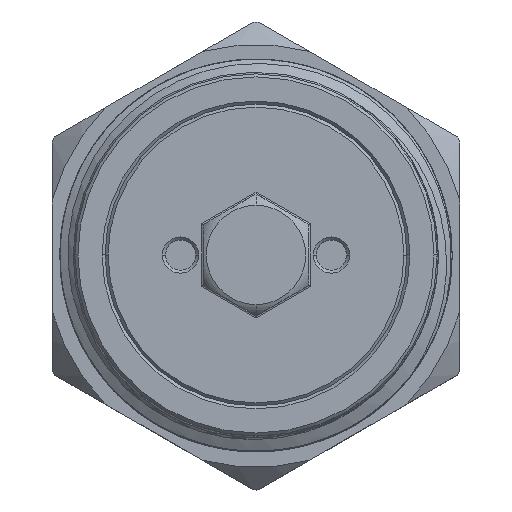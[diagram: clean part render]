
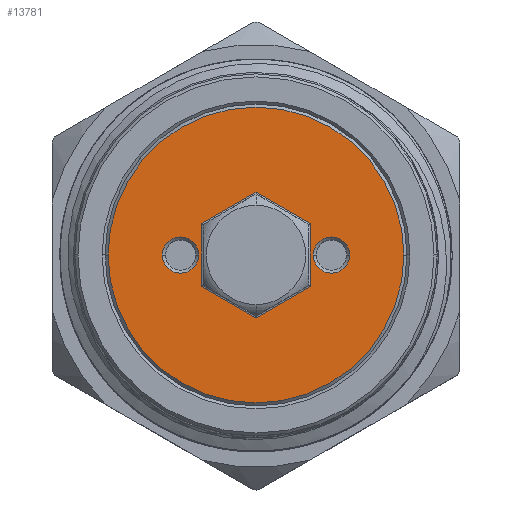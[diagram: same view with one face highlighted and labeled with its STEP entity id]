
A CAD part, top view. The second image highlights one B-rep face of the part: STEP entity #13781.
In plain terms, the highlighted planar face has unit normal (0, 0, 1) as drawn and (0, -1, 0) by its records, which use the part's own axes.
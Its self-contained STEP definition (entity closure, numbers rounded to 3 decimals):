
#13210=CARTESIAN_POINT('',(0.,0.,0.));
#13211=DIRECTION('',(0.,-1.,0.));
#13212=DIRECTION('',(-1.,0.,0.));
#13213=AXIS2_PLACEMENT_3D('',#13210,#13211,#13212);
#13215=CARTESIAN_POINT('',(0.,0.,0.));
#13216=DIRECTION('',(0.,-1.,0.));
#13217=DIRECTION('',(1.,0.,0.));
#13218=AXIS2_PLACEMENT_3D('',#13215,#13216,#13217);
#13220=CARTESIAN_POINT('',(-5.,0.,0.));
#13221=DIRECTION('',(0.,1.,0.));
#13222=DIRECTION('',(1.,0.,0.));
#13223=AXIS2_PLACEMENT_3D('',#13220,#13221,#13222);
#13225=CARTESIAN_POINT('',(-5.,0.,0.));
#13226=DIRECTION('',(0.,1.,0.));
#13227=DIRECTION('',(-1.,0.,0.));
#13228=AXIS2_PLACEMENT_3D('',#13225,#13226,#13227);
#13230=CARTESIAN_POINT('',(5.,0.,0.));
#13231=DIRECTION('',(0.,1.,0.));
#13232=DIRECTION('',(1.,0.,0.));
#13233=AXIS2_PLACEMENT_3D('',#13230,#13231,#13232);
#13235=CARTESIAN_POINT('',(5.,0.,0.));
#13236=DIRECTION('',(0.,1.,0.));
#13237=DIRECTION('',(-1.,0.,0.));
#13238=AXIS2_PLACEMENT_3D('',#13235,#13236,#13237);
#13240=DIRECTION('',(-0.866,0.,0.5));
#13241=VECTOR('',#13240,4.157);
#13242=CARTESIAN_POINT('',(3.6,0.,2.078));
#13243=LINE('',#13242,#13241);
#13244=DIRECTION('',(-0.866,0.,-0.5));
#13245=VECTOR('',#13244,4.157);
#13246=CARTESIAN_POINT('',(0.,0.,4.157));
#13247=LINE('',#13246,#13245);
#13248=DIRECTION('',(0.,0.,-1.));
#13249=VECTOR('',#13248,4.157);
#13250=CARTESIAN_POINT('',(-3.6,0.,2.078));
#13251=LINE('',#13250,#13249);
#13252=DIRECTION('',(0.866,0.,-0.5));
#13253=VECTOR('',#13252,4.157);
#13254=CARTESIAN_POINT('',(-3.6,0.,-2.078));
#13255=LINE('',#13254,#13253);
#13256=DIRECTION('',(0.866,0.,0.5));
#13257=VECTOR('',#13256,4.157);
#13258=CARTESIAN_POINT('',(0.,0.,-4.157));
#13259=LINE('',#13258,#13257);
#13260=DIRECTION('',(0.,0.,1.));
#13261=VECTOR('',#13260,4.157);
#13262=CARTESIAN_POINT('',(3.6,0.,-2.078));
#13263=LINE('',#13262,#13261);
#13670=CARTESIAN_POINT('',(-9.8,0.,0.));
#13671=CARTESIAN_POINT('',(9.8,0.,0.));
#13672=VERTEX_POINT('',#13670);
#13673=VERTEX_POINT('',#13671);
#13678=CARTESIAN_POINT('',(-3.8,0.,0.));
#13679=CARTESIAN_POINT('',(-6.2,0.,0.));
#13680=VERTEX_POINT('',#13678);
#13681=VERTEX_POINT('',#13679);
#13694=CARTESIAN_POINT('',(6.2,0.,0.));
#13695=CARTESIAN_POINT('',(3.8,0.,0.));
#13696=VERTEX_POINT('',#13694);
#13697=VERTEX_POINT('',#13695);
#13720=CARTESIAN_POINT('',(3.6,0.,2.078));
#13721=CARTESIAN_POINT('',(0.,0.,4.157));
#13722=VERTEX_POINT('',#13720);
#13723=VERTEX_POINT('',#13721);
#13728=CARTESIAN_POINT('',(3.6,0.,-2.078));
#13729=VERTEX_POINT('',#13728);
#13732=CARTESIAN_POINT('',(0.,0.,-4.157));
#13733=VERTEX_POINT('',#13732);
#13736=CARTESIAN_POINT('',(-3.6,0.,-2.078));
#13737=VERTEX_POINT('',#13736);
#13740=CARTESIAN_POINT('',(-3.6,0.,2.078));
#13741=VERTEX_POINT('',#13740);
#13744=CARTESIAN_POINT('',(0.,0.,0.));
#13745=DIRECTION('',(0.,1.,0.));
#13746=DIRECTION('',(1.,0.,0.));
#13747=AXIS2_PLACEMENT_3D('',#13744,#13745,#13746);
#13748=PLANE('',#13747);
#13750=ORIENTED_EDGE('',*,*,#13749,.F.);
#13752=ORIENTED_EDGE('',*,*,#13751,.F.);
#13753=EDGE_LOOP('',(#13750,#13752));
#13754=FACE_OUTER_BOUND('',#13753,.F.);
#13756=ORIENTED_EDGE('',*,*,#13755,.F.);
#13758=ORIENTED_EDGE('',*,*,#13757,.F.);
#13759=EDGE_LOOP('',(#13756,#13758));
#13760=FACE_BOUND('',#13759,.F.);
#13762=ORIENTED_EDGE('',*,*,#13761,.F.);
#13764=ORIENTED_EDGE('',*,*,#13763,.F.);
#13765=EDGE_LOOP('',(#13762,#13764));
#13766=FACE_BOUND('',#13765,.F.);
#13768=ORIENTED_EDGE('',*,*,#13767,.T.);
#13770=ORIENTED_EDGE('',*,*,#13769,.T.);
#13772=ORIENTED_EDGE('',*,*,#13771,.T.);
#13774=ORIENTED_EDGE('',*,*,#13773,.T.);
#13776=ORIENTED_EDGE('',*,*,#13775,.T.);
#13778=ORIENTED_EDGE('',*,*,#13777,.T.);
#13779=EDGE_LOOP('',(#13768,#13770,#13772,#13774,#13776,#13778));
#13780=FACE_BOUND('',#13779,.F.);
#13781=ADVANCED_FACE('',(#13754,#13760,#13766,#13780),#13748,.F.);
#13214=CIRCLE('',#13213,9.8);
#13219=CIRCLE('',#13218,9.8);
#13224=CIRCLE('',#13223,1.2);
#13229=CIRCLE('',#13228,1.2);
#13234=CIRCLE('',#13233,1.2);
#13239=CIRCLE('',#13238,1.2);
#13749=EDGE_CURVE('',#13672,#13673,#13214,.T.);
#13751=EDGE_CURVE('',#13673,#13672,#13219,.T.);
#13755=EDGE_CURVE('',#13680,#13681,#13224,.T.);
#13757=EDGE_CURVE('',#13681,#13680,#13229,.T.);
#13761=EDGE_CURVE('',#13696,#13697,#13234,.T.);
#13763=EDGE_CURVE('',#13697,#13696,#13239,.T.);
#13767=EDGE_CURVE('',#13722,#13723,#13243,.T.);
#13769=EDGE_CURVE('',#13723,#13741,#13247,.T.);
#13771=EDGE_CURVE('',#13741,#13737,#13251,.T.);
#13773=EDGE_CURVE('',#13737,#13733,#13255,.T.);
#13775=EDGE_CURVE('',#13733,#13729,#13259,.T.);
#13777=EDGE_CURVE('',#13729,#13722,#13263,.T.);
